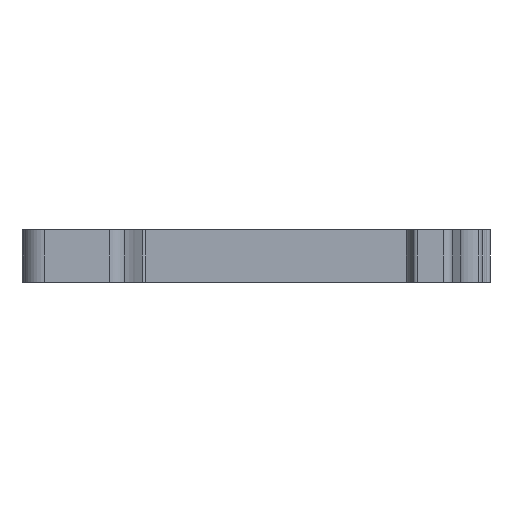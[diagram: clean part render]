
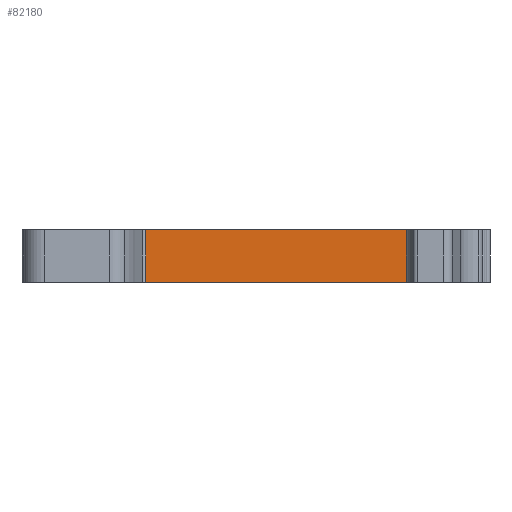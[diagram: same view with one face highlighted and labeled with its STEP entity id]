
A CAD part, front view. The second image highlights one B-rep face of the part: STEP entity #82180.
In plain terms, the highlighted planar face has unit normal (0, -1, 0).
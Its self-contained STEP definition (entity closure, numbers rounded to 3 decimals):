
#10520=CARTESIAN_POINT('',(17.5,0.,
0.));
#10530=VERTEX_POINT('',#10520);
#10560=CARTESIAN_POINT('',(1.738,0.,0.));
#10570=DIRECTION('',(1.,0.,0.));
#10580=VECTOR('',#10570,1.);
#10590=LINE('',#10560,#10580);
#10600=CARTESIAN_POINT('',(-14.8,0.,
0.));
#10610=VERTEX_POINT('',#10600);
#10620=EDGE_CURVE('',#10610,#10530,#10590,.T.);
#19080=CARTESIAN_POINT('',(-14.8,0.,
0.));
#19090=DIRECTION('',(0.,0.,-1.));
#19100=VECTOR('',#19090,1.);
#19110=LINE('',#19080,#19100);
#19120=CARTESIAN_POINT('',(-14.8,0.,-6.2))
;
#19130=VERTEX_POINT('',#19120);
#19140=EDGE_CURVE('',#10610,#19130,#19110,.T.);
#33110=CARTESIAN_POINT('',(17.5,0.,-6.2));
#33120=VERTEX_POINT('',#33110);
#33150=CARTESIAN_POINT('',(17.5,0.,0.));
#33160=DIRECTION('',(0.,0.,-1.));
#33170=VECTOR('',#33160,1.);
#33180=LINE('',#33150,#33170);
#33190=EDGE_CURVE('',#10530,#33120,#33180,.T.);
#37570=CARTESIAN_POINT('',(-4.85,0.,-6.2))
;
#37580=DIRECTION('',(1.,0.,0.));
#37590=VECTOR('',#37580,1.);
#37600=LINE('',#37570,#37590);
#37610=EDGE_CURVE('',#19130,#33120,#37600,.T.);
#82070=CARTESIAN_POINT('',(17.5,0.,0.));
#82080=DIRECTION('',(-0.,1.,0.));
#82090=DIRECTION('',(1.,0.,0.));
#82100=AXIS2_PLACEMENT_3D('',#82070,#82080,#82090);
#82110=PLANE('',#82100);
#82120=ORIENTED_EDGE('',*,*,#19140,.T.);
#82130=ORIENTED_EDGE('',*,*,#10620,.F.);
#82140=ORIENTED_EDGE('',*,*,#33190,.F.);
#82150=ORIENTED_EDGE('',*,*,#37610,.T.);
#82160=EDGE_LOOP('',(#82150,#82140,#82130,#82120));
#82170=FACE_OUTER_BOUND('',#82160,.T.);
#82180=ADVANCED_FACE('',(#82170),#82110,.F.);
